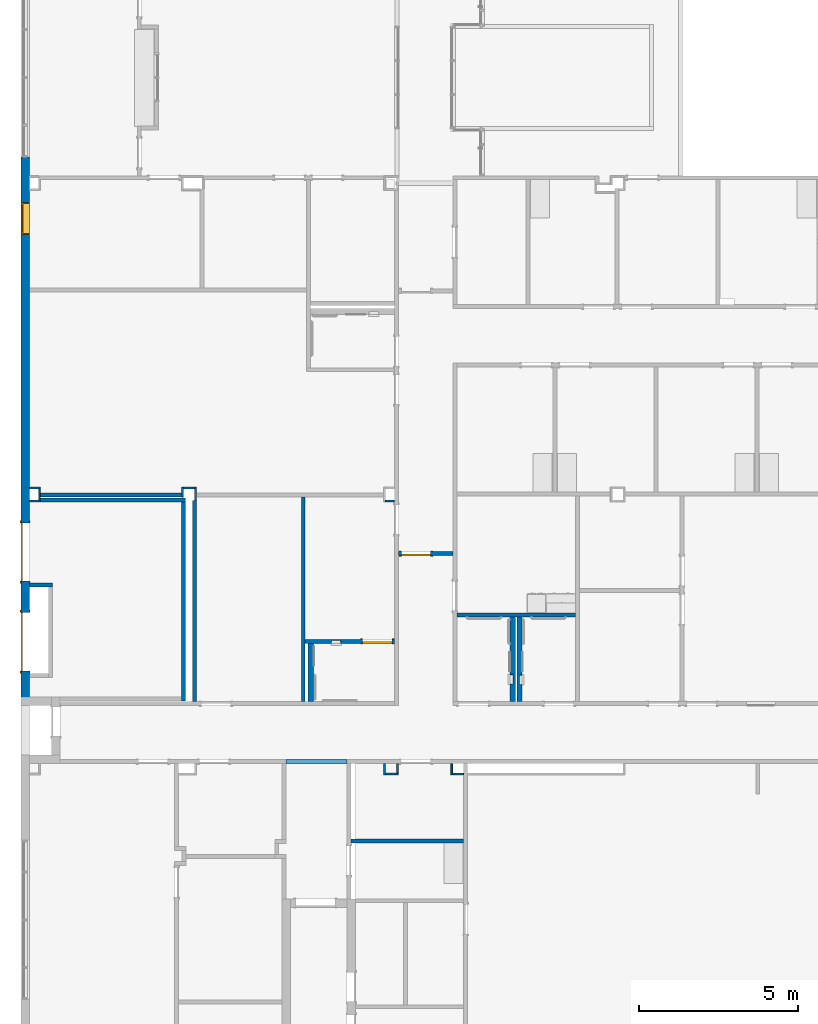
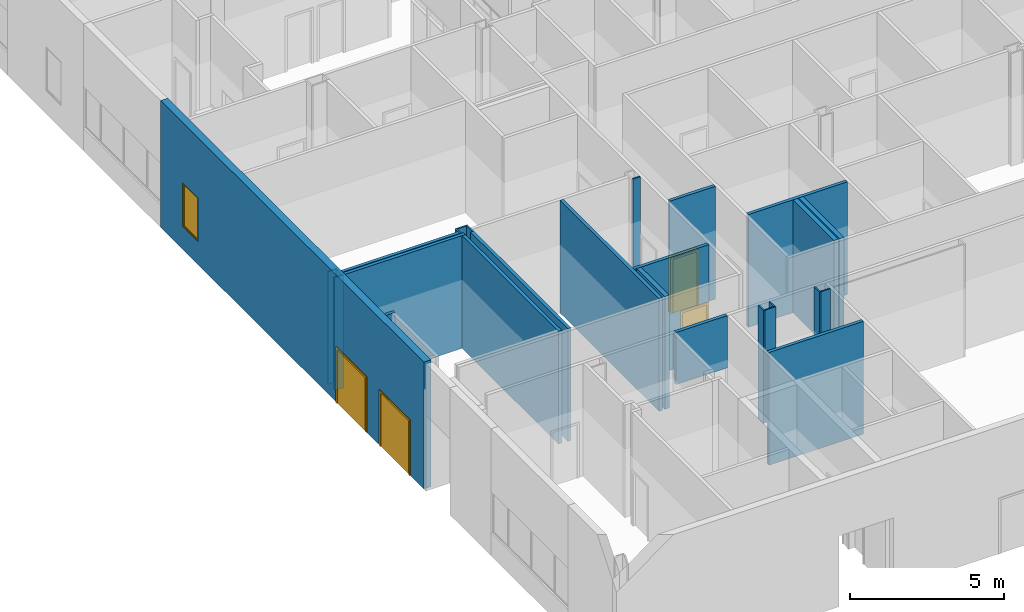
# One storey, part 20 of 82: 27 walls, 4 doors, 1 window, 8 openings.
"""IFC2X3 building model written with IfcOpenShell, lengths in metres."""

import ifcopenshell
import ifcopenshell.guid

model = None  # the IFC model being written
_history = None  # IfcOwnerHistory: only IFC2X3 demands one
_inside = {}  # id of a spatial element -> (the spatial element, [elements in it])
_under = {}  # id of a project, library or spatial element -> (it, [spatial elements below it])
_declared = {}  # id of a project -> (the project, [libraries it declares])
_typed = {}  # id of a type object -> (the type object, [elements of that type])
_made_of = {}  # id of a material, layer set ... -> (it, [elements and type objects made of it])


def new_model(schema):
    """Start an empty IFC model of exactly this schema.

    Asked for "IFC4X3", IfcOpenShell would pick the latest addendum, in which some entities
    have other attributes; the version numbers below select the first issue.
    IFC2X3 requires an IfcOwnerHistory on every rooted entity: one is made here for all.
    """
    global model, _history
    if schema == "IFC4X3":
        model = ifcopenshell.file(schema_version=(4, 3, 0, 0))
    else:
        model = ifcopenshell.file(schema=schema)
    _inside.clear()
    _under.clear()
    _declared.clear()
    _typed.clear()
    _made_of.clear()
    _history = None
    if model.schema == "IFC2X3":
        org = make("IfcOrganization", Name="unknown")
        user = make(
            "IfcPersonAndOrganization",
            ThePerson=make("IfcPerson", FamilyName="unknown"),
            TheOrganization=org,
        )
        app = make(
            "IfcApplication",
            ApplicationDeveloper=org,
            Version="unknown",
            ApplicationFullName="unknown",
            ApplicationIdentifier="unknown",
        )
        _history = make(
            "IfcOwnerHistory",
            OwningUser=user,
            OwningApplication=app,
            ChangeAction="ADDED",
            CreationDate=0,
        )
    return model


def make(cls, **values):
    """One entity of the class cls with the attributes given. An attribute that is None is left unset."""
    return model.create_entity(
        cls, **{name: value for name, value in values.items() if value is not None}
    )


def entity(cls, *values):
    """Any entity or typed value of the class cls, its attributes in the order of the schema. None: left unset."""
    e = model.create_entity(cls)
    for i, value in enumerate(values):
        if value is not None:
            e[i] = value
    return e


def rooted(cls, **values):
    """An entity with a GlobalId (a new one), such as an element, a storey or a relation."""
    return make(cls, GlobalId=ifcopenshell.guid.new(), OwnerHistory=_history, **values)


def si_unit(unit_type, name, prefix=None):
    """IfcSIUnit, for example si_unit("LENGTHUNIT", "METRE", prefix="MILLI")."""
    return make("IfcSIUnit", UnitType=unit_type, Prefix=prefix, Name=name)


def converted_unit(unit_type, name, factor, base, dimensions=None, offset=None):
    """IfcConversionBasedUnit, such as the inch: factor (a typed value) times the base unit."""
    return make(
        "IfcConversionBasedUnit"
        if offset is None
        else "IfcConversionBasedUnitWithOffset",
        ConversionOffset=offset,
        Dimensions=None
        if dimensions is None
        else entity("IfcDimensionalExponents", *dimensions),
        UnitType=unit_type,
        Name=name,
        ConversionFactor=make(
            "IfcMeasureWithUnit", ValueComponent=factor, UnitComponent=base
        ),
    )


def assignment(units):
    """IfcUnitAssignment: the units of a project."""
    return None if units is None else make("IfcUnitAssignment", Units=units)


def point(xyz):
    """IfcCartesianPoint."""
    return None if xyz is None else make("IfcCartesianPoint", Coordinates=xyz)


def direction(xyz):
    """IfcDirection."""
    return None if xyz is None else make("IfcDirection", DirectionRatios=xyz)


def frame(location, z_axis=None, x_axis=None):
    """IfcAxis2Placement3D, a coordinate frame: its origin and axes. An axis left out is left unset."""
    return make(
        "IfcAxis2Placement3D",
        Location=point(location),
        Axis=direction(z_axis),
        RefDirection=direction(x_axis),
    )


def frame_2d(location, x_axis=None):
    """IfcAxis2Placement2D, a coordinate frame in the plane: its origin and x axis."""
    return make(
        "IfcAxis2Placement2D", Location=point(location), RefDirection=direction(x_axis)
    )


def origin():
    """The frame at (0, 0, 0) with its axes left unset."""
    return frame((0.0, 0.0, 0.0))


def origin_2d_with_axis():
    """The frame at (0, 0) in the plane with the x axis (1, 0) written out."""
    return frame_2d((0.0, 0.0), x_axis=(1.0, 0.0))


def place(relative_to, where):
    """IfcLocalPlacement: puts the frame where relative to a parent placement (None: the world)."""
    return make(
        "IfcLocalPlacement", PlacementRelTo=relative_to, RelativePlacement=where
    )


def context(
    kind, dimensions, precision=None, world=None, true_north=None, identifier=None
):
    """IfcGeometricRepresentationContext, for example the 3D "Model" context."""
    return make(
        "IfcGeometricRepresentationContext",
        ContextIdentifier=identifier,
        ContextType=kind,
        CoordinateSpaceDimension=dimensions,
        Precision=precision,
        WorldCoordinateSystem=world,
        TrueNorth=true_north,
    )


def project(units=None, contexts=None):
    """IfcProject with its units and contexts."""
    return rooted(
        "IfcProject",
        Name="project",
        RepresentationContexts=contexts,
        UnitsInContext=assignment(units),
    )


def spatial(cls, under=None, at=None, **own):
    """A site, building, storey or space (cls), placed at a placement, below another one or the project."""
    s = rooted(cls, ObjectPlacement=at, **own)
    if under is not None:
        _under.setdefault(under.id(), (under, []))[1].append(s)
    return s


def polyline(points):
    """IfcPolyline through the points."""
    return make("IfcPolyline", Points=[point(p) for p in points])


def profile(cls, at=None, kind="AREA", **sizes):
    """A parametric profile (cls). Its sizes go by their IFC names, for example OverallWidth=200.0."""
    return make(cls, ProfileType=kind, Position=at, **sizes)


def rectangle(**sizes):
    """IfcRectangleProfileDef."""
    return profile("IfcRectangleProfileDef", **sizes)


def outline(outer, holes=None, kind="AREA"):
    """IfcArbitraryClosedProfileDef: a profile drawn as a closed curve; with holes, ...WithVoids."""
    if holes is None:
        return make("IfcArbitraryClosedProfileDef", ProfileType=kind, OuterCurve=outer)
    return make(
        "IfcArbitraryProfileDefWithVoids",
        ProfileType=kind,
        OuterCurve=outer,
        InnerCurves=holes,
    )


def extrude(swept, where, along, depth):
    """IfcExtrudedAreaSolid: the profile swept, set in the frame where, extruded along a direction by depth."""
    return make(
        "IfcExtrudedAreaSolid",
        SweptArea=swept,
        Position=where,
        ExtrudedDirection=direction(along),
        Depth=depth,
    )


def shape(context_of_items, identifier, shape_type, items):
    """IfcShapeRepresentation: the items that make up one representation, for example the "Body"."""
    return make(
        "IfcShapeRepresentation",
        ContextOfItems=context_of_items,
        RepresentationIdentifier=identifier,
        RepresentationType=shape_type,
        Items=items,
    )


def source(mapping_origin, context_of_items, identifier, shape_type, items):
    """IfcRepresentationMap: a shape defined once, which mapped items show again and again."""
    return make(
        "IfcRepresentationMap",
        MappingOrigin=mapping_origin,
        MappedRepresentation=shape(context_of_items, identifier, shape_type, items),
    )


def transform(
    local_origin,
    x_axis=None,
    y_axis=None,
    z_axis=None,
    scale=None,
    scale2=None,
    scale3=None,
    uniform=True,
):
    """IfcCartesianTransformationOperator3D, or its non-uniform kind. x_axis, y_axis, z_axis: its Axis1, 2, 3."""
    if uniform:
        return make(
            "IfcCartesianTransformationOperator3D",
            Axis1=direction(x_axis),
            Axis2=direction(y_axis),
            LocalOrigin=point(local_origin),
            Scale=scale,
            Axis3=direction(z_axis),
        )
    return make(
        "IfcCartesianTransformationOperator3DnonUniform",
        Axis1=direction(x_axis),
        Axis2=direction(y_axis),
        LocalOrigin=point(local_origin),
        Scale=scale,
        Axis3=direction(z_axis),
        Scale2=scale2,
        Scale3=scale3,
    )


def mapped(mapping_source, mapping_target):
    """IfcMappedItem: shows the shape of a source again, moved by a transform."""
    return make(
        "IfcMappedItem", MappingSource=mapping_source, MappingTarget=mapping_target
    )


def material(Name=None, Category=None):
    """IfcMaterial."""
    return make("IfcMaterial", Name=Name, Category=Category)


def layer(
    of_material, thickness, ventilated=None, Name=None, Category=None, Priority=None
):
    """IfcMaterialLayer: one layer of a wall or slab, of a material (None: an air gap)."""
    return make(
        "IfcMaterialLayer",
        Material=of_material,
        LayerThickness=thickness,
        IsVentilated=ventilated,
        Name=Name,
        Category=Category,
        Priority=Priority,
    )


def layer_set(layers, Name=None):
    """IfcMaterialLayerSet."""
    return make("IfcMaterialLayerSet", MaterialLayers=layers, LayerSetName=Name)


def layer_usage(for_layer_set, set_direction, sense, offset, extent=None):
    """IfcMaterialLayerSetUsage: how a layer set lies in its element."""
    return make(
        "IfcMaterialLayerSetUsage",
        ForLayerSet=for_layer_set,
        LayerSetDirection=set_direction,
        DirectionSense=sense,
        OffsetFromReferenceLine=offset,
        ReferenceExtent=extent,
    )


def made_of(thing, what):
    """Note that an element or type object is made of a material, layer set ...; save() writes the relation."""
    if what is not None:
        _made_of.setdefault(what.id(), (what, []))[1].append(thing)
    return thing


def type_object(cls, material=None, **own):
    """A type object (cls), such as IfcWallType, which elements share."""
    return made_of(rooted(cls, **own), material)


def type_shapes(of_type, sources):
    """Give a type object the sources (RepresentationMaps) that its elements show as mapped items."""
    of_type.RepresentationMaps = sources


def element(
    cls,
    number,
    at=None,
    inside=None,
    cuts=None,
    type_object=None,
    material=None,
    context=None,
    identifier="Body",
    shape_type=None,
    held_by="IfcProductDefinitionShape",
    body=None,
    shapes=None,
    **own,
):
    """One element of the class cls, such as IfcWall. Its Tag is "e" and its number.

    at: its placement. inside: the storey or other place that contains it. cuts: it is an
    opening in that element (IfcRelVoidsElement). A single representation is given by context,
    identifier, shape_type and body (its items); several are given by shapes. held_by: the class
    of the entity that holds the representations. save() writes the other relations.
    """
    e = rooted(cls, Tag="e%d" % number, ObjectPlacement=at, **own)
    if body is not None:
        shapes = [shape(context, identifier, shape_type, body)]
    if shapes is not None:
        e.Representation = make(held_by, Representations=shapes)
    if inside is not None:
        _inside.setdefault(inside.id(), (inside, []))[1].append(e)
    if cuts is not None:
        rooted(
            "IfcRelVoidsElement", RelatingBuildingElement=cuts, RelatedOpeningElement=e
        )
    if type_object is not None:
        _typed.setdefault(type_object.id(), (type_object, []))[1].append(e)
    return made_of(e, material)


def fill(opening, filler):
    """IfcRelFillsElement: the door or window that sits in an opening."""
    return rooted(
        "IfcRelFillsElement",
        RelatingOpeningElement=opening,
        RelatedBuildingElement=filler,
    )


def aggregate(whole, parts):
    """IfcRelAggregates: a whole, such as a stair, and the parts it consists of."""
    return rooted("IfcRelAggregates", RelatingObject=whole, RelatedObjects=parts)


def save(model, path):
    """Write the relations noted so far, then the file.

    IfcRelAggregates (storeys below a building ...), IfcRelContainedInSpatialStructure (elements
    in a storey), IfcRelDefinesByType, IfcRelAssociatesMaterial and IfcRelDeclares: one each for
    every whole, place, type object, material and project.
    """
    for whole, parts in _under.values():
        aggregate(whole, parts)
    for where, things in _inside.values():
        rooted(
            "IfcRelContainedInSpatialStructure",
            RelatedElements=things,
            RelatingStructure=where,
        )
    for kind, things in _typed.values():
        rooted("IfcRelDefinesByType", RelatedObjects=things, RelatingType=kind)
    for what, things in _made_of.values():
        rooted("IfcRelAssociatesMaterial", RelatedObjects=things, RelatingMaterial=what)
    for by, libraries in _declared.values():
        rooted("IfcRelDeclares", RelatingContext=by, RelatedDefinitions=libraries)
    model.write(path)


model = new_model("IFC2X3")

# Units and contexts
model_context = context("Model", 3, precision=1e-09, world=origin())
plan_context = context("Plan", 3, precision=1e-09, world=origin())
ifc_project = project(units=[si_unit("LENGTHUNIT", "METRE"), si_unit("AREAUNIT", "SQUARE_METRE"), si_unit("VOLUMEUNIT", "CUBIC_METRE"), converted_unit("PLANEANGLEUNIT", "DEGREE", entity("IfcRatioMeasure", 0.01745329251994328), si_unit("PLANEANGLEUNIT", "RADIAN"), dimensions=[0, 0, 0, 0, 0, 0, 0]), si_unit("TIMEUNIT", "SECOND")], contexts=[model_context, plan_context])

# Site, building, storey
site_placement = place(None, origin())
site = spatial("IfcSite", under=ifc_project, at=site_placement, Name="Default", CompositionType="ELEMENT")
building_placement = place(site_placement, origin())
building = spatial("IfcBuilding", under=site, at=building_placement, CompositionType="ELEMENT")
storey_placement = place(building_placement, origin())
storey = spatial("IfcBuildingStorey", under=building, at=storey_placement, Name="First Floor", CompositionType="ELEMENT", Elevation=-3.531500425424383e-13)

# Wall, openings, window, doors
ifc_material_1 = material(Name="Insulation - Insulated Panel")
ifc_layer_1 = layer(ifc_material_1, 0.042)
ifc_material_2 = material(Name="Metal - Firring")
ifc_layer_2 = layer(ifc_material_2, 0.038)
ifc_material_3 = material(Name="Wood - Sheathing - plywood")
ifc_layer_3 = layer(ifc_material_3, 0.019)
ifc_material_4 = material(Name="Metal - Stud Layer")
ifc_layer_4 = layer(ifc_material_4, 0.152)
ifc_material_5 = material(Name="Plasterboard")
ifc_layer_5 = layer(ifc_material_5, 0.016)
ifc_layer_set_1 = layer_set([ifc_layer_1, ifc_layer_2, ifc_layer_3, ifc_layer_4, ifc_layer_5], Name="Basic Wall:Exterior - Insul Panel on Mtl. Stud")
ifc_layer_usage_1 = layer_usage(ifc_layer_set_1, "AXIS2", "NEGATIVE", 0.1335)
wall_1_placement = place(storey_placement, frame((-52.14650000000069, 12.11349999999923, 0.0), z_axis=(0.0, 0.0, 1.0), x_axis=(0.0, 1.0, 0.0)))
wall_1 = element("IfcWallStandardCase", 1, at=wall_1_placement, inside=storey, material=ifc_layer_usage_1, Name="Basic Wall:Exterior - Insul Panel on Mtl. Stud", ObjectType="Basic Wall:Exterior - Insul Panel on Mtl. Stud", context=model_context, shape_type="SweptSolid", body=[
    extrude(rectangle(XDim=17.08145593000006, YDim=0.267, at=frame_2d((8.540727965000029, 0.0), x_axis=(1.0, 0.0))), origin(), (0.0, 0.0, 1.0), 5.02700000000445),
])
opening_1_placement = place(wall_1_placement, frame((14.65250000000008, -0.1335000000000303, 0.9049999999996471)))
opening_1 = element("IfcOpeningElement", 2, at=opening_1_placement, cuts=wall_1, Name="M_Fixed:1735 x 1000mm:1735 x 1000mm:1", ObjectType="Opening", context=model_context, shape_type="SweptSolid", body=[
    extrude(rectangle(XDim=1.734999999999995, YDim=0.9999999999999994, at=frame_2d((0.8674999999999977, 0.5000000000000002), x_axis=(1.0, 0.0))), frame((0.0, 0.0, 0.0), z_axis=(0.0, 1.0, 0.0), x_axis=(0.0, 0.0, 1.0)), (0.0, 0.0, 1.0), 0.267),
])
opening_2_placement = place(wall_1_placement, frame((0.9561000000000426, -0.1334999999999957, 0.0)))
opening_2 = element("IfcOpeningElement", 3, at=opening_2_placement, cuts=wall_1, Name="M_Double-Flush:1830 x 2134mm Exterior:1830 x 2134mm Exterior:1", ObjectType="Opening", context=model_context, shape_type="SweptSolid", body=[
    extrude(rectangle(XDim=2.133999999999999, YDim=1.829999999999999, at=frame_2d((1.067, 0.9149999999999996), x_axis=(1.0, 0.0))), frame((0.0, 0.0, 0.0), z_axis=(0.0, 1.0, 0.0), x_axis=(0.0, 0.0, 1.0)), (0.0, 0.0, 1.0), 0.267),
])
opening_3_placement = place(wall_1_placement, frame((3.776300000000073, -0.1335000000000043, 0.0)))
opening_3 = element("IfcOpeningElement", 4, at=opening_3_placement, cuts=wall_1, Name="M_Double-Flush:1830 x 2134mm Exterior:1830 x 2134mm Exterior:1", ObjectType="Opening", context=model_context, shape_type="SweptSolid", body=[
    extrude(rectangle(XDim=2.133999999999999, YDim=1.829999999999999, at=frame_2d((1.067, 0.9149999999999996), x_axis=(1.0, 0.0))), frame((0.0, 0.0, 0.0), z_axis=(0.0, 1.0, 0.0), x_axis=(0.0, 0.0, 1.0)), (0.0, 0.0, 1.0), 0.267),
])
window_style = type_object("IfcWindowStyle", Name="1735 x 1000mm", ConstructionType="NOTDEFINED", OperationType="NOTDEFINED", ParameterTakesPrecedence=False, Sizeable=False)
shared_shape_1 = source(origin(), model_context, "Body", "SweptSolid", [
    extrude(rectangle(XDim=0.012, YDim=0.873999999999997, at=origin_2d_with_axis()), frame((0.5000000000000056, 0.2259999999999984, 0.06299999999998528), z_axis=(0.0, 0.0, 1.0), x_axis=(0.0, -1.0, 0.0)), (0.0, 0.0, 1.0), 1.609000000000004),
    extrude(outline(polyline([(-0.4809999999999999, -0.8485000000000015), (0.4809999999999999, -0.8485000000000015), (0.4809999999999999, 0.8485000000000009), (-0.4809999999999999, 0.8485000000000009), (-0.4809999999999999, -0.8485000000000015)]), holes=[polyline([(-0.4369999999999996, -0.8045000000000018), (-0.4369999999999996, 0.8045000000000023), (0.4369999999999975, 0.8045000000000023), (0.4369999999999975, -0.8045000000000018), (-0.4369999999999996, -0.8045000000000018)])]), frame((0.5000000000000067, 0.203999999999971, 0.8674999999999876), z_axis=(0.0, 1.0, 0.0), x_axis=(1.0, 0.0, 0.0)), (0.0, 0.0, 1.0), 0.04400000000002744),
    extrude(outline(polyline([(-0.4999999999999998, -0.8674999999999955), (0.4999999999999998, -0.8674999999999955), (0.4999999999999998, 0.8674999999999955), (-0.4999999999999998, 0.8674999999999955), (-0.4999999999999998, -0.8674999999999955)]), holes=[polyline([(-0.4810000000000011, -0.8484999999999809), (-0.4810000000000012, 0.8485000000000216), (0.4809999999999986, 0.8485000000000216), (0.4809999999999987, -0.8484999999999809), (-0.4810000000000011, -0.8484999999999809)])]), frame((0.500000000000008, 0.203999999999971, 0.8675000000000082), z_axis=(0.0, 1.0, 0.0), x_axis=(1.0, 0.0, 0.0)), (0.0, 0.0, 1.0), 0.06300000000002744),
    extrude(outline(polyline([(-0.5000000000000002, -0.867499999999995), (0.5000000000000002, -0.867499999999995), (0.5000000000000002, 0.867499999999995), (-0.5000000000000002, 0.867499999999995), (-0.5000000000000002, -0.867499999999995)]), holes=[polyline([(-0.4679999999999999, -0.8354999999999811), (-0.4679999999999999, 0.8355000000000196), (0.4680000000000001, 0.8355000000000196), (0.4680000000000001, -0.8354999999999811), (-0.4679999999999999, -0.8354999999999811)])]), frame((0.5000000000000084, 0.0, 0.8675000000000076), z_axis=(0.0, 1.0, 0.0), x_axis=(1.0, 0.0, 0.0)), (0.0, 0.0, 1.0), 0.2039999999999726),
])
type_shapes(window_style, [shared_shape_1])
window_placement = place(opening_1_placement, origin())
window = element("IfcWindow", 5, at=window_placement, inside=storey, type_object=window_style, Name="M_Fixed:1735 x 1000mm:1735 x 1000mm", ObjectType="1735 x 1000mm", OverallHeight=1.734999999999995, OverallWidth=0.9999999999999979, context=model_context, shape_type="MappedRepresentation", body=[
    mapped(shared_shape_1, transform((0.0, 0.0, 0.0), scale=1.0)),
])
fill(opening_1, window)
door_style_1 = type_object("IfcDoorStyle", Name="1830 x 2134mm Exterior", ConstructionType="NOTDEFINED", OperationType="DOUBLE_DOOR_SINGLE_SWING", ParameterTakesPrecedence=False, Sizeable=False)
shared_shape_2 = source(origin(), model_context, "Body", "SweptSolid", [
    extrude(rectangle(XDim=0.051, YDim=0.9150000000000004, at=origin_2d_with_axis()), frame((1.3725, 0.2414999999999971, 0.0), z_axis=(0.0, 0.0, 1.0), x_axis=(0.0, -1.0, 0.0)), (0.0, 0.0, 1.0), 2.133999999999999),
    extrude(rectangle(XDim=0.05099999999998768, YDim=0.9149999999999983, at=origin_2d_with_axis()), frame((0.457500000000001, 0.2415000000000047, 0.0), z_axis=(0.0, 0.0, 1.0), x_axis=(0.0, -1.0, 0.0)), (0.0, 0.0, 1.0), 2.134),
    extrude(outline(polyline([(-1.048, 0.9149999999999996), (1.086, 0.9149999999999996), (1.086, 0.9909999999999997), (-1.124, 0.9909999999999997), (-1.124, -0.9909999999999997), (1.086, -0.9909999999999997), (1.086, -0.9149999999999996), (-1.048, -0.9149999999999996), (-1.048, 0.9149999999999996)])), frame((0.9149999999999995, -0.02499999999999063, 1.086), z_axis=(0.0, 1.0, 0.0), x_axis=(0.0, 0.0, -1.0)), (0.0, 0.0, 1.0), 0.02499999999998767),
    extrude(outline(polyline([(-1.048, 0.9149999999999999), (1.086, 0.9149999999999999), (1.086, 0.991), (-1.124, 0.991), (-1.124, -0.991), (1.086, -0.991), (1.086, -0.9149999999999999), (-1.048, -0.9149999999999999), (-1.048, 0.9149999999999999)])), frame((0.9150000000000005, 0.266999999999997, 1.086), z_axis=(0.0, 1.0, 0.0), x_axis=(0.0, 0.0, -1.0)), (0.0, 0.0, 1.0), 0.02500000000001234),
])
type_shapes(door_style_1, [shared_shape_2])
door_1_placement = place(opening_2_placement, origin())
door_1 = element("IfcDoor", 6, at=door_1_placement, inside=storey, type_object=door_style_1, Name="M_Double-Flush:1830 x 2134mm Exterior:1830 x 2134mm Exterior", ObjectType="1830 x 2134mm Exterior", OverallHeight=2.133999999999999, OverallWidth=1.83, context=model_context, shape_type="MappedRepresentation", body=[
    mapped(shared_shape_2, transform((0.0, 0.0, 0.0), scale=1.0)),
])
fill(opening_2, door_1)
door_2_placement = place(opening_3_placement, origin())
door_2 = element("IfcDoor", 7, at=door_2_placement, inside=storey, type_object=door_style_1, Name="M_Double-Flush:1830 x 2134mm Exterior:1830 x 2134mm Exterior", ObjectType="1830 x 2134mm Exterior", OverallHeight=2.133999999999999, OverallWidth=1.83, context=model_context, shape_type="MappedRepresentation", body=[
    mapped(shared_shape_2, transform((0.0, 0.0, 0.0), scale=1.0)),
])
fill(opening_3, door_2)

# Wall
ifc_layer_6 = layer(ifc_material_5, 0.016)
ifc_layer_7 = layer(ifc_material_4, 0.092)
ifc_layer_8 = layer(ifc_material_5, 0.016)
ifc_layer_set_2 = layer_set([ifc_layer_6, ifc_layer_7, ifc_layer_8], Name="Basic Wall:Interior - Partition (92mm Stud)")
ifc_layer_usage_2 = layer_usage(ifc_layer_set_2, "AXIS2", "NEGATIVE", 0.062)
wall_2_placement = place(storey_placement, frame((-38.59600000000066, 14.82799999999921, 0.0)))
element("IfcWallStandardCase", 8, at=wall_2_placement, inside=storey, material=ifc_layer_usage_2, Name="Basic Wall:Interior - Partition (92mm Stud)", ObjectType="Basic Wall:Interior - Partition (92mm Stud)", context=model_context, shape_type="SweptSolid", body=[
    extrude(rectangle(XDim=3.722000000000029, YDim=0.1240000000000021, at=frame_2d((1.861000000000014, 0.0), x_axis=(-1.0, 0.0))), origin(), (0.0, 0.0, 1.0), 4.46800000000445),
])

# Wall, openings, door
wall_3_placement = place(storey_placement, frame((-43.35400000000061, 13.99799999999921, 0.0)))
wall_3 = element("IfcWallStandardCase", 9, at=wall_3_placement, inside=storey, material=ifc_layer_usage_2, Name="Basic Wall:Interior - Partition (92mm Stud)", ObjectType="Basic Wall:Interior - Partition (92mm Stud)", context=model_context, shape_type="SweptSolid", body=[
    extrude(rectangle(XDim=2.799999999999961, YDim=0.1240000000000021, at=frame_2d((1.399999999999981, 0.0), x_axis=(-1.0, 0.0))), origin(), (0.0, 0.0, 1.0), 4.46800000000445),
])
opening_4_placement = place(wall_3_placement, origin())
element("IfcOpeningElement", 10, at=opening_4_placement, cuts=wall_3, ObjectType="Opening", context=model_context, shape_type="SweptSolid", body=[
    extrude(rectangle(XDim=1.362075, YDim=0.2984499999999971, at=origin_2d_with_axis()), frame((0.968899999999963, -0.1255000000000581, 1.041399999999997), z_axis=(0.0, 1.0, 0.0), x_axis=(0.0, 0.0, -1.0)), (0.0, 0.0, 1.0), 0.1524000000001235),
])
opening_5_placement = place(wall_3_placement, frame((2.719999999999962, 0.06199999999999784, 0.0)))
opening_5 = element("IfcOpeningElement", 11, at=opening_5_placement, cuts=wall_3, Name="M_Single-Flush:0915 x 2134mm:0915 x 2134mm:1", ObjectType="Opening", context=model_context, shape_type="SweptSolid", body=[
    extrude(rectangle(XDim=0.9149999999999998, YDim=2.134, at=frame_2d((1.067, 0.4574999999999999), x_axis=(0.0, -1.0))), frame((0.0, 0.0, 0.0), z_axis=(0.0, -1.0, 0.0), x_axis=(0.0, 0.0, 1.0)), (0.0, 0.0, 1.0), 0.124),
])
door_style_2 = type_object("IfcDoorStyle", Name="0915 x 2134mm", ConstructionType="NOTDEFINED", OperationType="SINGLE_SWING_LEFT", ParameterTakesPrecedence=False, Sizeable=False)
shared_shape_3 = source(origin(), model_context, "Body", "SweptSolid", [
    extrude(outline(polyline([(-0.5335, -1.123999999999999), (0.5334999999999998, -1.123999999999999), (0.5334999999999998, 1.086), (0.4574999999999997, 1.086), (0.4574999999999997, -1.048000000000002), (-0.4574999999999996, -1.048000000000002), (-0.4574999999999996, 1.086), (-0.5335, 1.086), (-0.5335, -1.123999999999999)])), frame((0.4575000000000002, 0.1489999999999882, 1.086), z_axis=(0.0, -1.0, 0.0), x_axis=(-1.0, 0.0, 0.0)), (0.0, 0.0, 1.0), 0.02499999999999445),
    extrude(outline(polyline([(-1.123999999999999, -0.5334999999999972), (1.085999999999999, -0.5334999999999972), (1.085999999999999, -0.4575000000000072), (-1.048, -0.4575000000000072), (-1.048, 0.4575000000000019), (1.085999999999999, 0.4575000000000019), (1.085999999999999, 0.5335000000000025), (-1.123999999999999, 0.5335000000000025), (-1.123999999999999, -0.5334999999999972)])), frame((0.4574999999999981, 0.0, 1.085999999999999), z_axis=(0.0, -1.0, 0.0), x_axis=(0.0, 0.0, -1.0)), (0.0, 0.0, 1.0), 0.02500000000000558),
    extrude(rectangle(XDim=0.9149999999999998, YDim=0.051, at=origin_2d_with_axis()), frame((0.4575000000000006, 0.09849999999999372, 0.0)), (0.0, 0.0, 1.0), 2.133999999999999),
])
type_shapes(door_style_2, [shared_shape_3])
door_3_placement = place(opening_5_placement, frame((0.0, 0.0, 0.0), z_axis=(0.0, 0.0, 1.0), x_axis=(-1.0, 0.0, 0.0)))
door_3 = element("IfcDoor", 12, at=door_3_placement, inside=storey, type_object=door_style_2, Name="M_Single-Flush:0915 x 2134mm:0915 x 2134mm", ObjectType="0915 x 2134mm", OverallHeight=2.134, OverallWidth=0.9149999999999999, context=model_context, shape_type="MappedRepresentation", body=[
    mapped(shared_shape_3, transform((0.0, 0.0, 0.0), scale=1.0)),
])
fill(opening_5, door_3)

# Walls
wall_4_placement = place(storey_placement, frame((-43.96000000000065, 10.22499999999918, 2.4)))
element("IfcWallStandardCase", 13, at=wall_4_placement, inside=storey, material=ifc_layer_usage_2, Name="Basic Wall:Interior - Partition (92mm Stud)", ObjectType="Basic Wall:Interior - Partition (92mm Stud)", context=model_context, shape_type="SweptSolid", body=[
    extrude(rectangle(XDim=1.919999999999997, YDim=0.1240000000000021, at=frame_2d((0.9599999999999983, 0.0), x_axis=(-1.0, 0.0))), origin(), (0.0, 0.0, 1.0), 2.06800000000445),
])
ifc_layer_9 = layer(ifc_material_4, 0.038)
ifc_layer_10 = layer(ifc_material_5, 0.016)
ifc_layer_set_3 = layer_set([ifc_layer_9, ifc_layer_10], Name="Basic Wall:Interior - Furring (38 mm Stud)")
ifc_layer_usage_3 = layer_usage(ifc_layer_set_3, "AXIS2", "POSITIVE", -0.027)
wall_5_placement = place(storey_placement, frame((-46.79700000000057, 18.83999999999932, 0.0), z_axis=(0.0, 0.0, 1.0), x_axis=(0.0, -1.0, 0.0)))
element("IfcWallStandardCase", 14, at=wall_5_placement, inside=storey, material=ifc_layer_usage_3, Name="Basic Wall:Interior - Furring (38 mm Stud)", ObjectType="Basic Wall:Interior - Furring (38 mm Stud)", context=model_context, shape_type="SweptSolid", body=[
    extrude(rectangle(XDim=0.4199999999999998, YDim=0.05400000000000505, at=frame_2d((0.2099999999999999, 0.0), x_axis=(-1.0, 0.0))), origin(), (0.0, 0.0, 1.0), 4.468000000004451),
])
wall_6_placement = place(storey_placement, frame((-51.67000000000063, 18.40699999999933, 0.0), z_axis=(0.0, 0.0, 1.0), x_axis=(-1.0, 0.0, 0.0)))
element("IfcWallStandardCase", 15, at=wall_6_placement, inside=storey, material=ifc_layer_usage_3, Name="Basic Wall:Interior - Furring (38 mm Stud)", ObjectType="Basic Wall:Interior - Furring (38 mm Stud)", context=model_context, shape_type="SweptSolid", body=[
    extrude(rectangle(XDim=0.3430000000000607, YDim=0.05400000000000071, at=frame_2d((0.1715000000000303, 0.0), x_axis=(-1.0, 0.0))), origin(), (0.0, 0.0, 1.0), 4.46800000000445),
])
wall_7_placement = place(storey_placement, frame((-51.69700000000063, 18.78599999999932, 0.0), z_axis=(0.0, 0.0, 1.0), x_axis=(0.0, -1.0, 0.0)))
element("IfcWallStandardCase", 16, at=wall_7_placement, inside=storey, material=ifc_layer_usage_3, Name="Basic Wall:Interior - Furring (38 mm Stud)", ObjectType="Basic Wall:Interior - Furring (38 mm Stud)", context=model_context, shape_type="SweptSolid", body=[
    extrude(rectangle(XDim=0.3519999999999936, YDim=0.05400000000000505, at=frame_2d((0.1759999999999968, 0.0), x_axis=(-1.0, 0.0))), origin(), (0.0, 0.0, 1.0), 4.46800000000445),
])
wall_8_placement = place(storey_placement, frame((-43.4160000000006, 12.10399999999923, 0.0), z_axis=(0.0, 0.0, 1.0), x_axis=(0.0, 1.0, 0.0)))
element("IfcWallStandardCase", 17, at=wall_8_placement, inside=storey, material=ifc_layer_usage_2, Name="Basic Wall:Interior - Partition (92mm Stud)", ObjectType="Basic Wall:Interior - Partition (92mm Stud)", context=model_context, shape_type="SweptSolid", body=[
    extrude(rectangle(XDim=6.422000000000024, YDim=0.1240000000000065, at=frame_2d((3.211000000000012, 0.0), x_axis=(-1.0, 0.0))), origin(), (0.0, 0.0, 1.0), 4.46800000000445),
])
wall_9_placement = place(storey_placement, frame((-47.10600000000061, 18.44199999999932, 0.0), z_axis=(0.0, 0.0, 1.0), x_axis=(-1.0, 0.0, 0.0)))
element("IfcWallStandardCase", 18, at=wall_9_placement, inside=storey, material=ifc_layer_usage_2, Name="Basic Wall:Interior - Partition (92mm Stud)", ObjectType="Basic Wall:Interior - Partition (92mm Stud)", context=model_context, shape_type="SweptSolid", body=[
    extrude(rectangle(XDim=4.56400000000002, YDim=0.1240000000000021, at=frame_2d((2.28200000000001, 0.0), x_axis=(-1.0, 0.0))), origin(), (0.0, 0.0, 1.0), 4.46800000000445),
])

# Wall, opening, door
wall_10_placement = place(storey_placement, frame((-38.72000000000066, 16.75199999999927, 0.0), z_axis=(0.0, 0.0, 1.0), x_axis=(-1.0, 0.0, 0.0)))
wall_10 = element("IfcWallStandardCase", 19, at=wall_10_placement, inside=storey, material=ifc_layer_usage_2, Name="Basic Wall:Interior - Partition (92mm Stud)", ObjectType="Basic Wall:Interior - Partition (92mm Stud)", context=model_context, shape_type="SweptSolid", body=[
    extrude(rectangle(XDim=1.709999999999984, YDim=0.1240000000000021, at=frame_2d((0.8549999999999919, 0.0), x_axis=(-1.0, 0.0))), origin(), (0.0, 0.0, 1.0), 4.46800000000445),
])
opening_6_placement = place(wall_10_placement, frame((0.6949999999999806, -0.06200000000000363, 0.0)))
opening_6 = element("IfcOpeningElement", 20, at=opening_6_placement, cuts=wall_10, Name="M_Single-Flush:0915 x 2134mm:0915 x 2134mm:1", ObjectType="Opening", context=model_context, shape_type="SweptSolid", body=[
    extrude(rectangle(XDim=0.9149999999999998, YDim=2.134, at=frame_2d((1.067, 0.4575), x_axis=(0.0, 1.0))), frame((0.0, 0.0, 0.0), z_axis=(0.0, 1.0, 0.0), x_axis=(0.0, 0.0, 1.0)), (0.0, 0.0, 1.0), 0.124),
])
door_style_3 = type_object("IfcDoorStyle", Name="0915 x 2134mm", ConstructionType="NOTDEFINED", OperationType="SINGLE_SWING_RIGHT", ParameterTakesPrecedence=False, Sizeable=False)
shared_shape_4 = source(origin(), model_context, "Body", "SweptSolid", [
    extrude(outline(polyline([(-0.5335, -1.123999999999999), (0.5334999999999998, -1.123999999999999), (0.5334999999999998, 1.086), (0.4574999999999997, 1.086), (0.4574999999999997, -1.048000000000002), (-0.4574999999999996, -1.048000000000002), (-0.4574999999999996, 1.086), (-0.5335, 1.086), (-0.5335, -1.123999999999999)])), frame((0.4575000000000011, 0.1239999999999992, 1.086), z_axis=(0.0, 1.0, 0.0), x_axis=(1.0, 0.0, 0.0)), (0.0, 0.0, 1.0), 0.02499999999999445),
    extrude(outline(polyline([(-1.123999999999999, -0.5334999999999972), (1.085999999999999, -0.5334999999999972), (1.085999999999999, -0.4575000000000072), (-1.048, -0.4575000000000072), (-1.048, 0.4575000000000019), (1.085999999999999, 0.4575000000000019), (1.085999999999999, 0.5335000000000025), (-1.123999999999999, 0.5335000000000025), (-1.123999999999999, -0.5334999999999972)])), frame((0.4575000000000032, -0.02500000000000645, 1.085999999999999), z_axis=(0.0, 1.0, 0.0), x_axis=(0.0, 0.0, -1.0)), (0.0, 0.0, 1.0), 0.02500000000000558),
    extrude(rectangle(XDim=0.051, YDim=0.9149999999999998, at=origin_2d_with_axis()), frame((0.4575000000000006, 0.09849999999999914, 0.0), z_axis=(0.0, 0.0, 1.0), x_axis=(0.0, 1.0, 0.0)), (0.0, 0.0, 1.0), 2.133999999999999),
])
type_shapes(door_style_3, [shared_shape_4])
door_4_placement = place(opening_6_placement, origin())
door_4 = element("IfcDoor", 21, at=door_4_placement, inside=storey, type_object=door_style_3, Name="M_Single-Flush:0915 x 2134mm:0915 x 2134mm", ObjectType="0915 x 2134mm", OverallHeight=2.134, OverallWidth=0.9149999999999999, context=model_context, shape_type="MappedRepresentation", body=[
    mapped(shared_shape_4, transform((0.0, 0.0, 0.0), scale=1.0)),
])
fill(opening_6, door_4)

# Wall
wall_11_placement = place(storey_placement, frame((-46.83200000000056, 18.41999999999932, 0.0), z_axis=(0.0, 0.0, 1.0), x_axis=(0.0, -1.0, 0.0)))
element("IfcWallStandardCase", 22, at=wall_11_placement, inside=storey, material=ifc_layer_usage_2, Name="Basic Wall:Interior - Partition (92mm Stud)", ObjectType="Basic Wall:Interior - Partition (92mm Stud)", context=model_context, shape_type="SweptSolid", body=[
    extrude(rectangle(XDim=6.316000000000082, YDim=0.1240000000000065, at=frame_2d((3.158000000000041, 0.0), x_axis=(-1.0, 0.0))), origin(), (0.0, 0.0, 1.0), 4.46800000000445),
])

# Wall, opening
ifc_layer_11 = layer(ifc_material_4, 0.152)
ifc_layer_12 = layer(ifc_material_5, 0.016)
ifc_layer_set_4 = layer_set([ifc_layer_11, ifc_layer_12], Name="Basic Wall:Interior - Furring (152 mm Stud)")
ifc_layer_usage_4 = layer_usage(ifc_layer_set_4, "AXIS2", "POSITIVE", -0.08399999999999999)
wall_12_placement = place(storey_placement, frame((-36.84100000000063, 12.10399999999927, 0.0), z_axis=(0.0, 0.0, 1.0), x_axis=(0.0, 1.0, 0.0)))
wall_12 = element("IfcWallStandardCase", 23, at=wall_12_placement, inside=storey, material=ifc_layer_usage_4, Name="Basic Wall:Interior - Furring (152 mm Stud)", ObjectType="Basic Wall:Interior - Furring (152 mm Stud)", context=model_context, shape_type="SweptSolid", body=[
    extrude(rectangle(XDim=2.661999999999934, YDim=0.1679999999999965, at=frame_2d((1.330999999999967, 0.0), x_axis=(-1.0, 0.0))), origin(), (0.0, 0.0, 1.0), 4.46800000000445),
])
opening_7_placement = place(wall_12_placement, origin())
element("IfcOpeningElement", 24, at=opening_7_placement, cuts=wall_12, ObjectType="Opening", context=model_context, shape_type="SweptSolid", body=[
    extrude(rectangle(XDim=1.362075, YDim=0.2984499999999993, at=frame_2d((0.0, 0.0), x_axis=(0.0, 1.0))), frame((0.7050999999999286, -0.004900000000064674, 1.041399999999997), z_axis=(0.0, 1.0, 0.0), x_axis=(1.0, 0.0, 0.0)), (0.0, 0.0, 1.0), 0.1524000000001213),
])

# Wall
ifc_material_6 = material(Name="Type-X Plasterboard")
ifc_layer_13 = layer(ifc_material_6, 0.016)
ifc_layer_14 = layer(ifc_material_4, 0.092)
ifc_layer_15 = layer(ifc_material_6, 0.016)
ifc_layer_set_5 = layer_set([ifc_layer_13, ifc_layer_14, ifc_layer_15], Name="Basic Wall:Interior - Rated 1-HR (92mm Stud)")
ifc_layer_usage_5 = layer_usage(ifc_layer_set_5, "AXIS2", "NEGATIVE", 0.06200000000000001)
wall_13_placement = place(storey_placement, frame((-52.01300000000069, 15.7677999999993, 0.0)))
element("IfcWallStandardCase", 25, at=wall_13_placement, inside=storey, material=ifc_layer_usage_5, Name="Basic Wall:Interior - Rated 1-HR (92mm Stud)", ObjectType="Basic Wall:Interior - Rated 1-HR (92mm Stud)", context=model_context, shape_type="SweptSolid", body=[
    extrude(rectangle(XDim=0.7330000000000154, YDim=0.1240000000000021, at=frame_2d((0.3665000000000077, 0.0), x_axis=(-1.0, 0.0))), origin(), (0.0, 0.0, 1.0), 4.468000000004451),
])

# Wall, opening
wall_14_placement = place(storey_placement, frame((-36.62900000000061, 14.76599999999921, 0.0), z_axis=(0.0, 0.0, 1.0), x_axis=(0.0, -1.0, 0.0)))
wall_14 = element("IfcWallStandardCase", 26, at=wall_14_placement, inside=storey, material=ifc_layer_usage_4, Name="Basic Wall:Interior - Furring (152 mm Stud)", ObjectType="Basic Wall:Interior - Furring (152 mm Stud)", context=model_context, shape_type="SweptSolid", body=[
    extrude(rectangle(XDim=2.661999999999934, YDim=0.1679999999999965, at=frame_2d((1.330999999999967, 0.0), x_axis=(-1.0, 0.0))), origin(), (0.0, 0.0, 1.0), 4.46800000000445),
])
opening_8_placement = place(wall_14_placement, origin())
element("IfcOpeningElement", 27, at=opening_8_placement, cuts=wall_14, ObjectType="Opening", context=model_context, shape_type="SweptSolid", body=[
    extrude(rectangle(XDim=1.362075, YDim=0.2984499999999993, at=frame_2d((0.0, 0.0), x_axis=(0.0, 1.0))), frame((1.976899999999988, -0.004900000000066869, 1.041399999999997), z_axis=(0.0, 1.0, 0.0), x_axis=(1.0, 0.0, 0.0)), (0.0, 0.0, 1.0), 0.1524000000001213),
])

# Walls
wall_15_placement = place(storey_placement, frame((-38.3793992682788, 7.736999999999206, 0.0), z_axis=(0.0, 0.0, 1.0), x_axis=(-1.0, 0.0, 0.0)))
element("IfcWallStandardCase", 28, at=wall_15_placement, inside=storey, material=ifc_layer_usage_2, Name="Basic Wall:Interior - Partition (92mm Stud)", ObjectType="Basic Wall:Interior - Partition (92mm Stud)", context=model_context, shape_type="SweptSolid", body=[
    extrude(rectangle(XDim=3.536600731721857, YDim=0.124, at=frame_2d((1.768300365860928, 0.0), x_axis=(-1.0, 0.0))), origin(), (0.0, 0.0, 1.0), 4.46800000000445),
])
wall_16_placement = place(storey_placement, frame((-47.16800000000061, 12.12299999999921, 0.0), z_axis=(0.0, 0.0, 1.0), x_axis=(0.0, 1.0, 0.0)))
element("IfcWallStandardCase", 29, at=wall_16_placement, inside=storey, material=ifc_layer_usage_2, Name="Basic Wall:Interior - Partition (92mm Stud)", ObjectType="Basic Wall:Interior - Partition (92mm Stud)", context=model_context, shape_type="SweptSolid", body=[
    extrude(rectangle(XDim=6.257000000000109, YDim=0.1240000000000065, at=frame_2d((3.128500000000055, 0.0), x_axis=(-1.0, 0.0))), origin(), (0.0, 0.0, 1.0), 4.46800000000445),
])
wall_17_placement = place(storey_placement, frame((-43.1770000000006, 13.93599999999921, 0.0), z_axis=(0.0, 0.0, 1.0), x_axis=(0.0, -1.0, 0.0)))
element("IfcWallStandardCase", 30, at=wall_17_placement, inside=storey, material=ifc_layer_usage_4, Name="Basic Wall:Interior - Furring (152 mm Stud)", ObjectType="Basic Wall:Interior - Furring (152 mm Stud)", context=model_context, shape_type="SweptSolid", body=[
    extrude(rectangle(XDim=1.831999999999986, YDim=0.1679999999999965, at=frame_2d((0.9159999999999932, 0.0), x_axis=(-1.0, 0.0))), origin(), (0.0, 0.0, 1.0), 4.46800000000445),
])
wall_18_placement = place(storey_placement, frame((-47.17600000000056, 18.81299999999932, 0.0)))
element("IfcWallStandardCase", 31, at=wall_18_placement, inside=storey, material=ifc_layer_usage_3, Name="Basic Wall:Interior - Furring (38 mm Stud)", ObjectType="Basic Wall:Interior - Furring (38 mm Stud)", context=model_context, shape_type="SweptSolid", body=[
    extrude(rectangle(XDim=0.3520000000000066, YDim=0.05400000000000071, at=frame_2d((0.1760000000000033, 0.0), x_axis=(-1.0, 0.0))), origin(), (0.0, 0.0, 1.0), 4.46800000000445),
])
wall_19_placement = place(storey_placement, frame((-52.01300000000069, 18.81299999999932, 0.0)))
element("IfcWallStandardCase", 32, at=wall_19_placement, inside=storey, material=ifc_layer_usage_3, Name="Basic Wall:Interior - Furring (38 mm Stud)", ObjectType="Basic Wall:Interior - Furring (38 mm Stud)", context=model_context, shape_type="SweptSolid", body=[
    extrude(rectangle(XDim=0.3430000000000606, YDim=0.05400000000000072, at=frame_2d((0.1715000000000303, 0.0), x_axis=(-1.0, 0.0))), origin(), (0.0, 0.0, 1.0), 4.46800000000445),
])
ifc_layer_usage_6 = layer_usage(ifc_layer_set_3, "AXIS2", "NEGATIVE", 0.027)
wall_20_placement = place(storey_placement, frame((-40.45700000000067, 9.863999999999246, 0.0), z_axis=(0.0, 0.0, 1.0), x_axis=(0.0, 1.0, 0.0)))
element("IfcWallStandardCase", 33, at=wall_20_placement, inside=storey, material=ifc_layer_usage_6, Name="Basic Wall:Interior - Furring (38 mm Stud)", ObjectType="Basic Wall:Interior - Furring (38 mm Stud)", context=model_context, shape_type="SweptSolid", body=[
    extrude(rectangle(XDim=0.2989999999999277, YDim=0.05400000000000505, at=frame_2d((0.1494999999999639, 0.0), x_axis=(-1.0, 0.0))), origin(), (0.0, 0.0, 1.0), 4.46800000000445),
])
wall_21_placement = place(storey_placement, frame((-38.75840000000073, 9.809999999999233, 0.0), z_axis=(0.0, 0.0, 1.0), x_axis=(0.0, 1.0, 0.0)))
element("IfcWallStandardCase", 34, at=wall_21_placement, inside=storey, material=ifc_layer_usage_3, Name="Basic Wall:Interior - Furring (38 mm Stud)", ObjectType="Basic Wall:Interior - Furring (38 mm Stud)", context=model_context, shape_type="SweptSolid", body=[
    extrude(rectangle(XDim=0.3529999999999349, YDim=0.05399999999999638, at=frame_2d((0.1764999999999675, 0.0), x_axis=(-1.0, 0.0))), origin(), (0.0, 0.0, 1.0), 4.46800000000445),
])
wall_22_placement = place(storey_placement, frame((-40.55400000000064, 18.40699999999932, 0.0), z_axis=(0.0, 0.0, 1.0), x_axis=(-1.0, 0.0, 0.0)))
element("IfcWallStandardCase", 35, at=wall_22_placement, inside=storey, material=ifc_layer_usage_3, Name="Basic Wall:Interior - Furring (38 mm Stud)", ObjectType="Basic Wall:Interior - Furring (38 mm Stud)", context=model_context, shape_type="SweptSolid", body=[
    extrude(rectangle(XDim=0.2819999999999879, YDim=0.05400000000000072, at=frame_2d((0.1409999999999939, 0.0), x_axis=(-1.0, 0.0))), origin(), (0.0, 0.0, 1.0), 4.46800000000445),
])
wall_23_placement = place(storey_placement, frame((-47.20300000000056, 18.52599999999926, 0.0), z_axis=(0.0, 0.0, 1.0), x_axis=(0.0, 1.0, 0.0)))
element("IfcWallStandardCase", 36, at=wall_23_placement, inside=storey, material=ifc_layer_usage_3, Name="Basic Wall:Interior - Furring (38 mm Stud)", ObjectType="Basic Wall:Interior - Furring (38 mm Stud)", context=model_context, shape_type="SweptSolid", body=[
    extrude(rectangle(XDim=0.3140000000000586, YDim=0.05400000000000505, at=frame_2d((0.1570000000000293, 0.0), x_axis=(-1.0, 0.0))), origin(), (0.0, 0.0, 1.0), 4.46800000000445),
])
wall_24_placement = place(storey_placement, frame((-38.3793992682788, 9.836999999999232, 0.0), z_axis=(0.0, 0.0, 1.0), x_axis=(-1.0, 0.0, 0.0)))
element("IfcWallStandardCase", 37, at=wall_24_placement, inside=storey, material=ifc_layer_usage_3, Name="Basic Wall:Interior - Furring (38 mm Stud)", ObjectType="Basic Wall:Interior - Furring (38 mm Stud)", context=model_context, shape_type="SweptSolid", body=[
    extrude(rectangle(XDim=0.3520007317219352, YDim=0.05400000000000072, at=frame_2d((0.1760003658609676, 0.0), x_axis=(-1.0, 0.0))), origin(), (0.0, 0.0, 1.0), 4.46800000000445),
])
wall_25_placement = place(storey_placement, frame((-51.67000000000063, 18.58799999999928, 0.0)))
element("IfcWallStandardCase", 38, at=wall_25_placement, inside=storey, material=ifc_layer_usage_2, Name="Basic Wall:Interior - Partition (92mm Stud)", ObjectType="Basic Wall:Interior - Partition (92mm Stud)", context=model_context, shape_type="SweptSolid", body=[
    extrude(rectangle(XDim=4.440000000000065, YDim=0.1240000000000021, at=frame_2d((2.220000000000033, 0.0), x_axis=(-1.0, 0.0))), origin(), (0.0, 0.0, 1.0), 4.46800000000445),
])
wall_26_placement = place(storey_placement, frame((-40.86300000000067, 10.16299999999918, 0.0), z_axis=(0.0, 0.0, 1.0), x_axis=(0.0, -1.0, 0.0)))
element("IfcWallStandardCase", 39, at=wall_26_placement, inside=storey, material=ifc_layer_usage_6, Name="Basic Wall:Interior - Furring (38 mm Stud)", ObjectType="Basic Wall:Interior - Furring (38 mm Stud)", context=model_context, shape_type="SweptSolid", body=[
    extrude(rectangle(XDim=0.3529999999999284, YDim=0.05400000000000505, at=frame_2d((0.1764999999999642, 0.0), x_axis=(-1.0, 0.0))), origin(), (0.0, 0.0, 1.0), 4.46800000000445),
])
wall_27_placement = place(storey_placement, frame((-40.83600000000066, 9.836999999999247, 0.0)))
element("IfcWallStandardCase", 40, at=wall_27_placement, inside=storey, material=ifc_layer_usage_6, Name="Basic Wall:Interior - Furring (38 mm Stud)", ObjectType="Basic Wall:Interior - Furring (38 mm Stud)", context=model_context, shape_type="SweptSolid", body=[
    extrude(rectangle(XDim=0.4059999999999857, YDim=0.05400000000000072, at=frame_2d((0.2029999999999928, 0.0), x_axis=(-1.0, 0.0))), origin(), (0.0, 0.0, 1.0), 4.46800000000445),
])

save(model, "model.ifc")
